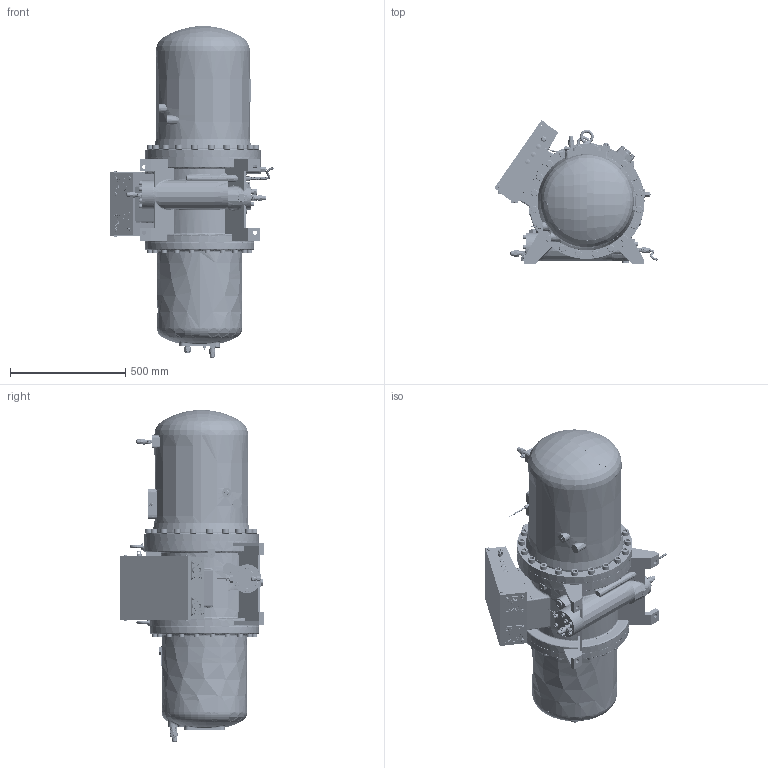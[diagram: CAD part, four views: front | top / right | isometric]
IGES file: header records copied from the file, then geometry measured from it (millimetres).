
Global section: file name: RC2-340B outline; native system: Autodesk Inventor 2017; preprocessor: unknown; author: hedylu; date: 20170626.145700; units: centimetre
Bounding box: 708.48 x 622.75 x 1438.48 mm (x, y, z)
Surface area: 4248081.3 mm2 (no closed solid volume)
Topology: 0 solids, 0 shells, 2807 faces, 37466 edges, 37451 vertices
Faces by surface type: bspline 1484, revolution 1323
